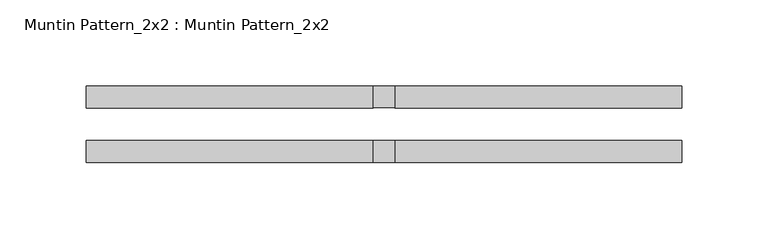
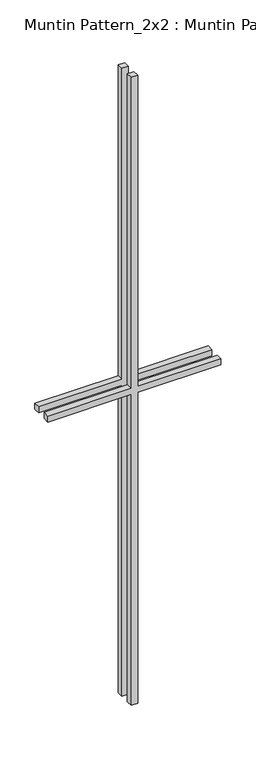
"""IFC4 building model written with IfcOpenShell, lengths in millimetres: proxy geometry, Muntin Pattern_2x2 : Muntin Pattern_2x2."""

import ifcopenshell
import ifcopenshell.guid

model = None  # the IFC model being written
_history = None  # IfcOwnerHistory: only IFC2X3 demands one
_inside = {}  # id of a spatial element -> (the spatial element, [elements in it])
_under = {}  # id of a project, library or spatial element -> (it, [spatial elements below it])
_declared = {}  # id of a project -> (the project, [libraries it declares])
_typed = {}  # id of a type object -> (the type object, [elements of that type])
_made_of = {}  # id of a material, layer set ... -> (it, [elements and type objects made of it])


def new_model(schema):
    """Start an empty IFC model of exactly this schema.

    Asked for "IFC4X3", IfcOpenShell would pick the latest addendum, in which some entities
    have other attributes; the version numbers below select the first issue.
    IFC2X3 requires an IfcOwnerHistory on every rooted entity: one is made here for all.
    """
    global model, _history
    if schema == "IFC4X3":
        model = ifcopenshell.file(schema_version=(4, 3, 0, 0))
    else:
        model = ifcopenshell.file(schema=schema)
    _inside.clear()
    _under.clear()
    _declared.clear()
    _typed.clear()
    _made_of.clear()
    _history = None
    if model.schema == "IFC2X3":
        org = make("IfcOrganization", Name="unknown")
        user = make(
            "IfcPersonAndOrganization",
            ThePerson=make("IfcPerson", FamilyName="unknown"),
            TheOrganization=org,
        )
        app = make(
            "IfcApplication",
            ApplicationDeveloper=org,
            Version="unknown",
            ApplicationFullName="unknown",
            ApplicationIdentifier="unknown",
        )
        _history = make(
            "IfcOwnerHistory",
            OwningUser=user,
            OwningApplication=app,
            ChangeAction="ADDED",
            CreationDate=0,
        )
    return model


def make(cls, **values):
    """One entity of the class cls with the attributes given. An attribute that is None is left unset."""
    return model.create_entity(
        cls, **{name: value for name, value in values.items() if value is not None}
    )


def rooted(cls, **values):
    """An entity with a GlobalId (a new one), such as an element, a storey or a relation."""
    return make(cls, GlobalId=ifcopenshell.guid.new(), OwnerHistory=_history, **values)


def si_unit(unit_type, name, prefix=None):
    """IfcSIUnit, for example si_unit("LENGTHUNIT", "METRE", prefix="MILLI")."""
    return make("IfcSIUnit", UnitType=unit_type, Prefix=prefix, Name=name)


def assignment(units):
    """IfcUnitAssignment: the units of a project."""
    return None if units is None else make("IfcUnitAssignment", Units=units)


def point(xyz):
    """IfcCartesianPoint."""
    return None if xyz is None else make("IfcCartesianPoint", Coordinates=xyz)


def direction(xyz):
    """IfcDirection."""
    return None if xyz is None else make("IfcDirection", DirectionRatios=xyz)


def frame(location, z_axis=None, x_axis=None):
    """IfcAxis2Placement3D, a coordinate frame: its origin and axes. An axis left out is left unset."""
    return make(
        "IfcAxis2Placement3D",
        Location=point(location),
        Axis=direction(z_axis),
        RefDirection=direction(x_axis),
    )


def origin():
    """The frame at (0, 0, 0) with its axes left unset."""
    return frame((0.0, 0.0, 0.0))


def place(relative_to, where):
    """IfcLocalPlacement: puts the frame where relative to a parent placement (None: the world)."""
    return make(
        "IfcLocalPlacement", PlacementRelTo=relative_to, RelativePlacement=where
    )


def context(
    kind, dimensions, precision=None, world=None, true_north=None, identifier=None
):
    """IfcGeometricRepresentationContext, for example the 3D "Model" context."""
    return make(
        "IfcGeometricRepresentationContext",
        ContextIdentifier=identifier,
        ContextType=kind,
        CoordinateSpaceDimension=dimensions,
        Precision=precision,
        WorldCoordinateSystem=world,
        TrueNorth=true_north,
    )


def project(units=None, contexts=None):
    """IfcProject with its units and contexts."""
    return rooted(
        "IfcProject",
        Name="project",
        RepresentationContexts=contexts,
        UnitsInContext=assignment(units),
    )


def spatial(cls, under=None, at=None, **own):
    """A site, building, storey or space (cls), placed at a placement, below another one or the project."""
    s = rooted(cls, ObjectPlacement=at, **own)
    if under is not None:
        _under.setdefault(under.id(), (under, []))[1].append(s)
    return s


def polyline(points):
    """IfcPolyline through the points."""
    return make("IfcPolyline", Points=[point(p) for p in points])


def outline(outer, holes=None, kind="AREA"):
    """IfcArbitraryClosedProfileDef: a profile drawn as a closed curve; with holes, ...WithVoids."""
    if holes is None:
        return make("IfcArbitraryClosedProfileDef", ProfileType=kind, OuterCurve=outer)
    return make(
        "IfcArbitraryProfileDefWithVoids",
        ProfileType=kind,
        OuterCurve=outer,
        InnerCurves=holes,
    )


def extrude(swept, where, along, depth):
    """IfcExtrudedAreaSolid: the profile swept, set in the frame where, extruded along a direction by depth."""
    return make(
        "IfcExtrudedAreaSolid",
        SweptArea=swept,
        Position=where,
        ExtrudedDirection=direction(along),
        Depth=depth,
    )


def shape(context_of_items, identifier, shape_type, items):
    """IfcShapeRepresentation: the items that make up one representation, for example the "Body"."""
    return make(
        "IfcShapeRepresentation",
        ContextOfItems=context_of_items,
        RepresentationIdentifier=identifier,
        RepresentationType=shape_type,
        Items=items,
    )


def source(mapping_origin, context_of_items, identifier, shape_type, items):
    """IfcRepresentationMap: a shape defined once, which mapped items show again and again."""
    return make(
        "IfcRepresentationMap",
        MappingOrigin=mapping_origin,
        MappedRepresentation=shape(context_of_items, identifier, shape_type, items),
    )


def transform(
    local_origin,
    x_axis=None,
    y_axis=None,
    z_axis=None,
    scale=None,
    scale2=None,
    scale3=None,
    uniform=True,
):
    """IfcCartesianTransformationOperator3D, or its non-uniform kind. x_axis, y_axis, z_axis: its Axis1, 2, 3."""
    if uniform:
        return make(
            "IfcCartesianTransformationOperator3D",
            Axis1=direction(x_axis),
            Axis2=direction(y_axis),
            LocalOrigin=point(local_origin),
            Scale=scale,
            Axis3=direction(z_axis),
        )
    return make(
        "IfcCartesianTransformationOperator3DnonUniform",
        Axis1=direction(x_axis),
        Axis2=direction(y_axis),
        LocalOrigin=point(local_origin),
        Scale=scale,
        Axis3=direction(z_axis),
        Scale2=scale2,
        Scale3=scale3,
    )


def mapped(mapping_source, mapping_target):
    """IfcMappedItem: shows the shape of a source again, moved by a transform."""
    return make(
        "IfcMappedItem", MappingSource=mapping_source, MappingTarget=mapping_target
    )


def made_of(thing, what):
    """Note that an element or type object is made of a material, layer set ...; save() writes the relation."""
    if what is not None:
        _made_of.setdefault(what.id(), (what, []))[1].append(thing)
    return thing


def element(
    cls,
    number,
    at=None,
    inside=None,
    cuts=None,
    type_object=None,
    material=None,
    context=None,
    identifier="Body",
    shape_type=None,
    held_by="IfcProductDefinitionShape",
    body=None,
    shapes=None,
    **own,
):
    """One element of the class cls, such as IfcWall. Its Tag is "e" and its number.

    at: its placement. inside: the storey or other place that contains it. cuts: it is an
    opening in that element (IfcRelVoidsElement). A single representation is given by context,
    identifier, shape_type and body (its items); several are given by shapes. held_by: the class
    of the entity that holds the representations. save() writes the other relations.
    """
    e = rooted(cls, Tag="e%d" % number, ObjectPlacement=at, **own)
    if body is not None:
        shapes = [shape(context, identifier, shape_type, body)]
    if shapes is not None:
        e.Representation = make(held_by, Representations=shapes)
    if inside is not None:
        _inside.setdefault(inside.id(), (inside, []))[1].append(e)
    if cuts is not None:
        rooted(
            "IfcRelVoidsElement", RelatingBuildingElement=cuts, RelatedOpeningElement=e
        )
    if type_object is not None:
        _typed.setdefault(type_object.id(), (type_object, []))[1].append(e)
    return made_of(e, material)


def aggregate(whole, parts):
    """IfcRelAggregates: a whole, such as a stair, and the parts it consists of."""
    return rooted("IfcRelAggregates", RelatingObject=whole, RelatedObjects=parts)


def save(model, path):
    """Write the relations noted so far, then the file.

    IfcRelAggregates (storeys below a building ...), IfcRelContainedInSpatialStructure (elements
    in a storey), IfcRelDefinesByType, IfcRelAssociatesMaterial and IfcRelDeclares: one each for
    every whole, place, type object, material and project.
    """
    for whole, parts in _under.values():
        aggregate(whole, parts)
    for where, things in _inside.values():
        rooted(
            "IfcRelContainedInSpatialStructure",
            RelatedElements=things,
            RelatingStructure=where,
        )
    for kind, things in _typed.values():
        rooted("IfcRelDefinesByType", RelatedObjects=things, RelatingType=kind)
    for what, things in _made_of.values():
        rooted("IfcRelAssociatesMaterial", RelatedObjects=things, RelatingMaterial=what)
    for by, libraries in _declared.values():
        rooted("IfcRelDeclares", RelatingContext=by, RelatedDefinitions=libraries)
    model.write(path)


def muntin_pattern_2x2_muntin_pattern_2x2_751c9794(model_context):
    return source(origin(), model_context, "Body", "SweptSolid", [
        extrude(outline(polyline([(669.925, -6.35), (669.925, -173.0375), (657.225, -173.0375), (657.225, -6.35), (0.0, -6.35), (0.0, 6.35), (657.225, 6.35), (657.225, 173.0375), (669.925, 173.0375), (669.925, 6.35), (1327.15, 6.35), (1327.15, -6.35), (669.925, -6.35)])), frame((0.0, -22.225, 0.0), z_axis=(0.0, 1.0, 0.0), x_axis=(0.0, 0.0, 1.0)), (0.0, 0.0, 1.0), 12.7),
        extrude(outline(polyline([(669.925, -6.35), (669.925, -173.0375), (657.225, -173.0375), (657.225, -6.35), (0.0, -6.35), (0.0, 6.35), (657.225, 6.35), (657.225, 173.0375), (669.925, 173.0375), (669.925, 6.35), (1327.15, 6.35), (1327.15, -6.35), (669.925, -6.35)])), frame((0.0, 9.525, 0.0), z_axis=(0.0, 1.0, 0.0), x_axis=(0.0, 0.0, 1.0)), (0.0, 0.0, 1.0), 12.7),
    ])


if __name__ == "__main__":
    model = new_model("IFC4")
    model_context = context("Model", 3, world=origin())
    ifc_project = project(units=[si_unit("LENGTHUNIT", "METRE", prefix="MILLI")], contexts=[model_context])
    site = spatial("IfcSite", under=ifc_project)
    building = spatial("IfcBuilding", under=site)
    placement = place(None, origin())
    muntin_pattern_2x2_muntin_pattern_2x2_shape = muntin_pattern_2x2_muntin_pattern_2x2_751c9794(model_context)
    element("IfcBuildingElementProxy", 1, Name="Muntin Pattern_2x2 : Muntin Pattern_2x2", ObjectType="Muntin Pattern_2x2 : Muntin Pattern_2x2", at=placement, inside=building, context=model_context, shape_type="MappedRepresentation", body=[
        mapped(muntin_pattern_2x2_muntin_pattern_2x2_shape, transform((0.0, 0.0, 0.0), x_axis=(1.0, 0.0, 0.0), y_axis=(0.0, 1.0, 0.0), z_axis=(0.0, 0.0, 1.0))),
    ])
    save(model, "model.ifc")
